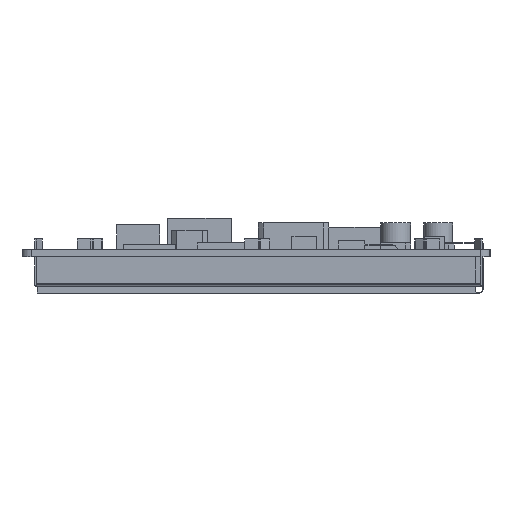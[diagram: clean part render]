
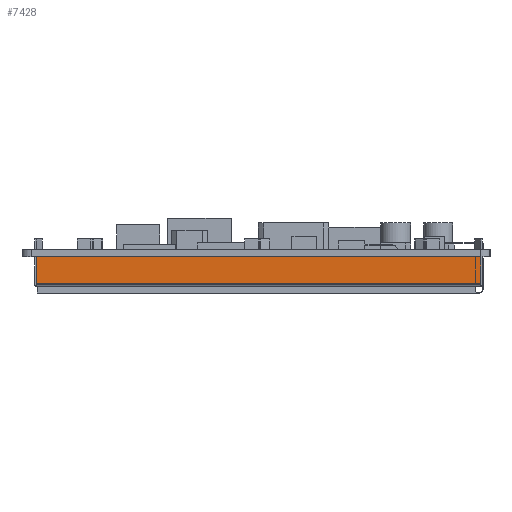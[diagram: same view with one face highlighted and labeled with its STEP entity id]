
A CAD part, left-side view. The second image highlights one B-rep face of the part: STEP entity #7428.
In plain terms, the highlighted planar face has unit normal (-1, 0, 0).
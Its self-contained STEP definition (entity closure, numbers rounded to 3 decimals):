
#7428=ADVANCED_FACE('',(#11747),#9580,.F.);
#9580=PLANE('',#42135);
#11747=FACE_OUTER_BOUND('',#14010,.T.);
#14010=EDGE_LOOP('',(#21828,#21829,#21830,#21831));
#21828=ORIENTED_EDGE('',*,*,#30469,.T.);
#21829=ORIENTED_EDGE('',*,*,#30470,.F.);
#21830=ORIENTED_EDGE('',*,*,#30471,.F.);
#21831=ORIENTED_EDGE('',*,*,#30472,.T.);
#26164=VERTEX_POINT('',#59818);
#26165=VERTEX_POINT('',#59819);
#26166=VERTEX_POINT('',#59821);
#26167=VERTEX_POINT('',#59823);
#30469=EDGE_CURVE('',#26164,#26165,#34981,.T.);
#30470=EDGE_CURVE('',#26166,#26165,#34982,.T.);
#30471=EDGE_CURVE('',#26167,#26166,#34983,.T.);
#30472=EDGE_CURVE('',#26167,#26164,#34984,.T.);
#34981=LINE('',#59817,#39421);
#34982=LINE('',#59820,#39422);
#34983=LINE('',#59822,#39423);
#34984=LINE('',#59824,#39424);
#39421=VECTOR('',#49877,1.);
#39422=VECTOR('',#49878,1.);
#39423=VECTOR('',#49879,1.);
#39424=VECTOR('',#49880,1.);
#42135=AXIS2_PLACEMENT_3D('',#59825,#49881,#49882);
#49877=DIRECTION('',(0.,1.,0.));
#49878=DIRECTION('',(0.,0.,1.));
#49879=DIRECTION('',(0.,1.,0.));
#49880=DIRECTION('',(0.,0.,1.));
#49881=DIRECTION('',(1.,0.,0.));
#49882=DIRECTION('',(0.,1.,0.));
#59817=CARTESIAN_POINT('',(-77.25,-45.34,-1.6));
#59818=CARTESIAN_POINT('',(-77.25,-45.34,-1.6));
#59819=CARTESIAN_POINT('',(-77.25,54.68,-1.6));
#59820=CARTESIAN_POINT('',(-77.25,54.68,-7.9));
#59821=CARTESIAN_POINT('',(-77.25,54.68,-7.9));
#59822=CARTESIAN_POINT('',(-77.25,-45.34,-7.9));
#59823=CARTESIAN_POINT('',(-77.25,-45.34,-7.9));
#59824=CARTESIAN_POINT('',(-77.25,-45.34,-7.9));
#59825=CARTESIAN_POINT('',(-77.25,-45.34,-7.9));
